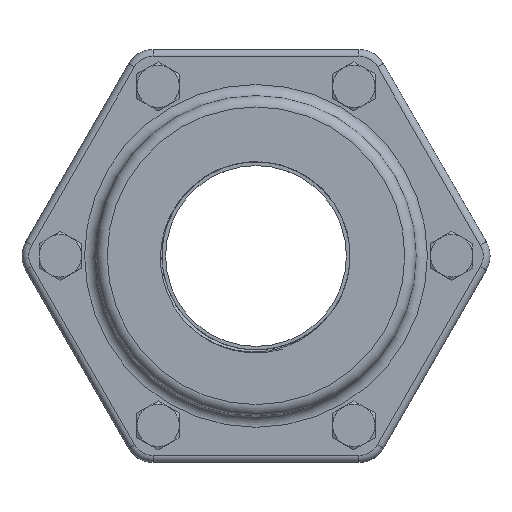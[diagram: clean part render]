
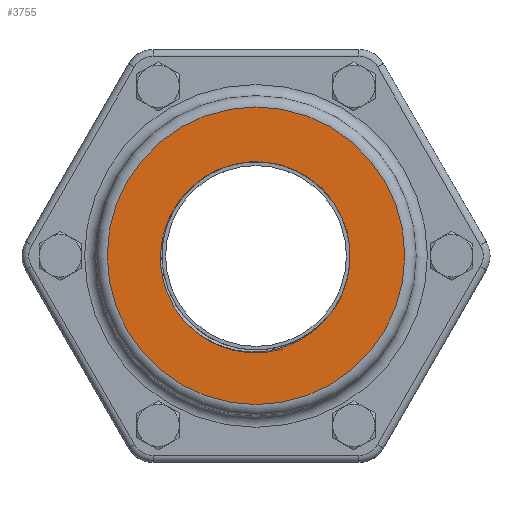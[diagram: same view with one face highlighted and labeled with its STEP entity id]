
A CAD part, top view. The second image highlights one B-rep face of the part: STEP entity #3755.
In plain terms, the highlighted planar face has unit normal (0, 0, 1).
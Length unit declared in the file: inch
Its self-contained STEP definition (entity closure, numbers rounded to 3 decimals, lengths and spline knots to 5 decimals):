
#1584=PLANE('',#3922);
#1631=B_SPLINE_CURVE_WITH_KNOTS('',3,(#7783,#7784,#7785,#7786,#7787,#7788,
#7789,#7790,#7791,#7792,#7793,#7794,#7795,#7796,#7797,#7798,#7799,#7800,
#7801,#7802),.UNSPECIFIED.,.F.,.U.,(4,2,2,2,2,2,2,2,2,4),(0.,1.29723,
2.91547,4.71502,6.33501,7.81897,9.31476,
10.97123,12.96928,14.92547),.UNSPECIFIED.);
#1636=B_SPLINE_CURVE_WITH_KNOTS('',3,(#12227,#12228,#12229,#12230,#12231,
#12232,#12233,#12234,#12235,#12236,#12237,#12238,#12239,#12240,#12241,#12242,
#12243,#12244,#12245,#12246),.UNSPECIFIED.,.F.,.U.,(4,2,2,2,2,2,2,2,2,4),
(0.,1.16937,2.24103,3.3913,4.76258,
6.27336,7.60928,8.7325,9.39475,10.04674),
 .UNSPECIFIED.);
#1638=B_SPLINE_CURVE_WITH_KNOTS('',3,(#14460,#14461,#14462,#14463,#14464,
#14465,#14466,#14467,#14468,#14469,#14470,#14471),.UNSPECIFIED.,.F.,.U.,
(4,2,2,2,2,4),(0.,1.28095,2.56401,3.97475,4.8148,
5.65466),.UNSPECIFIED.);
#1675=VERTEX_POINT('',#7345);
#1676=VERTEX_POINT('',#7782);
#1680=VERTEX_POINT('',#12226);
#1681=VERTEX_POINT('',#12247);
#1689=VERTEX_POINT('',#24839);
#1948=CIRCLE('',#3923,5.0165);
#1949=CIRCLE('',#3924,3.175);
#2069=EDGE_CURVE('',#1675,#1676,#1631,.T.);
#2074=EDGE_CURVE('',#1681,#1680,#1636,.T.);
#2076=EDGE_CURVE('',#1676,#1681,#1638,.T.);
#2089=EDGE_CURVE('',#1689,#1689,#1948,.T.);
#2090=EDGE_CURVE('',#1680,#1675,#1949,.T.);
#2519=ORIENTED_EDGE('',*,*,#2089,.F.);
#2520=ORIENTED_EDGE('',*,*,#2069,.T.);
#2521=ORIENTED_EDGE('',*,*,#2076,.T.);
#2522=ORIENTED_EDGE('',*,*,#2074,.T.);
#2523=ORIENTED_EDGE('',*,*,#2090,.T.);
#3317=EDGE_LOOP('',(#2519));
#3318=EDGE_LOOP('',(#2520,#2521,#2522,#2523));
#3536=FACE_BOUND('',#3317,.T.);
#3537=FACE_BOUND('',#3318,.T.);
#3755=ADVANCED_FACE('',(#3536,#3537),#1584,.T.);
#3922=AXIS2_PLACEMENT_3D('',#24837,#30331,$);
#3923=AXIS2_PLACEMENT_3D('',#24838,#30332,#30333);
#3924=AXIS2_PLACEMENT_3D('',#24840,#30334,#30335);
#7345=CARTESIAN_POINT('',(2.61541,-1.80008,3.556));
#7782=CARTESIAN_POINT('',(-1.71887,-2.78388,3.556));
#7783=CARTESIAN_POINT('',(1.46525,2.69592,3.556));
#7784=CARTESIAN_POINT('',(1.84941,2.49742,3.556));
#7785=CARTESIAN_POINT('',(2.15343,2.23809,3.556));
#7786=CARTESIAN_POINT('',(2.67561,1.63134,3.556));
#7787=CARTESIAN_POINT('',(2.86389,1.26613,3.556));
#7788=CARTESIAN_POINT('',(3.10546,0.53871,3.556));
#7789=CARTESIAN_POINT('',(3.15738,0.13336,3.556));
#7790=CARTESIAN_POINT('',(3.10627,-0.63526,3.556));
#7791=CARTESIAN_POINT('',(3.01573,-1.04028,3.556));
#7792=CARTESIAN_POINT('',(2.63495,-1.81929,3.556));
#7793=CARTESIAN_POINT('',(2.38246,-2.15196,3.556));
#7794=CARTESIAN_POINT('',(1.75717,-2.70709,3.556));
#7795=CARTESIAN_POINT('',(1.39226,-2.92047,3.556));
#7796=CARTESIAN_POINT('',(0.55898,-3.21064,3.556));
#7797=CARTESIAN_POINT('',(0.13369,-3.25321,3.556));
#7798=CARTESIAN_POINT('',(-0.70004,-3.20688,3.556));
#7799=CARTESIAN_POINT('',(-1.11267,-3.08718,3.556));
#7800=CARTESIAN_POINT('',(-1.80445,-2.7575,3.556));
#7801=CARTESIAN_POINT('',(-2.15738,-2.51556,3.556));
#7802=CARTESIAN_POINT('',(-2.46845,-2.17594,3.556));
#12226=CARTESIAN_POINT('',(-2.55222,1.88859,3.556));
#12227=CARTESIAN_POINT('',(-1.67752,-2.83437,3.556));
#12228=CARTESIAN_POINT('',(-2.00856,-2.62857,3.556));
#12229=CARTESIAN_POINT('',(-2.33478,-2.34453,3.556));
#12230=CARTESIAN_POINT('',(-2.85516,-1.62317,3.556));
#12231=CARTESIAN_POINT('',(-3.03397,-1.2338,3.556));
#12232=CARTESIAN_POINT('',(-3.23872,-0.3757,3.556));
#12233=CARTESIAN_POINT('',(-3.24159,0.05093,3.556));
#12234=CARTESIAN_POINT('',(-3.1097,0.88582,3.556));
#12235=CARTESIAN_POINT('',(-2.94836,1.27644,3.556));
#12236=CARTESIAN_POINT('',(-2.54231,1.94383,3.556));
#12237=CARTESIAN_POINT('',(-2.26262,2.25059,3.556));
#12238=CARTESIAN_POINT('',(-1.64131,2.70989,3.556));
#12239=CARTESIAN_POINT('',(-1.2757,2.90255,3.556));
#12240=CARTESIAN_POINT('',(-0.47247,3.10656,3.556));
#12241=CARTESIAN_POINT('',(-0.06406,3.13985,3.556));
#12242=CARTESIAN_POINT('',(0.61902,3.04279,3.556));
#12243=CARTESIAN_POINT('',(0.86787,2.97556,3.556));
#12244=CARTESIAN_POINT('',(1.34015,2.78134,3.556));
#12245=CARTESIAN_POINT('',(1.56258,2.65608,3.556));
#12246=CARTESIAN_POINT('',(1.76623,2.5054,3.556));
#12247=CARTESIAN_POINT('',(-2.44074,-2.1789,3.556));
#14460=CARTESIAN_POINT('',(0.3163,-3.25644,3.556));
#14461=CARTESIAN_POINT('',(-0.10869,-3.29761,3.556));
#14462=CARTESIAN_POINT('',(-0.53675,-3.25574,3.556));
#14463=CARTESIAN_POINT('',(-1.35789,-3.00744,3.556));
#14464=CARTESIAN_POINT('',(-1.73813,-2.80459,3.556));
#14465=CARTESIAN_POINT('',(-2.43399,-2.23655,3.556));
#14466=CARTESIAN_POINT('',(-2.69645,-1.89203,3.556));
#14467=CARTESIAN_POINT('',(-2.98685,-1.35494,3.556));
#14468=CARTESIAN_POINT('',(-3.0736,-1.14401,3.556));
#14469=CARTESIAN_POINT('',(-3.20202,-0.70903,3.556));
#14470=CARTESIAN_POINT('',(-3.24379,-0.48469,3.556));
#14471=CARTESIAN_POINT('',(-3.26168,-0.25759,3.556));
#24837=CARTESIAN_POINT('',(0.,0.,3.556));
#24838=CARTESIAN_POINT('',(0.,0.,3.556));
#24839=CARTESIAN_POINT('',(5.0165,0.,3.556));
#24840=CARTESIAN_POINT('',(0.,0.,3.556));
#30331=DIRECTION('',(0.,0.,1.));
#30332=DIRECTION('',(0.,0.,-1.));
#30333=DIRECTION('',(-5.017,0.,0.));
#30334=DIRECTION('',(0.,0.,-1.));
#30335=DIRECTION('',(3.175,0.,0.));
